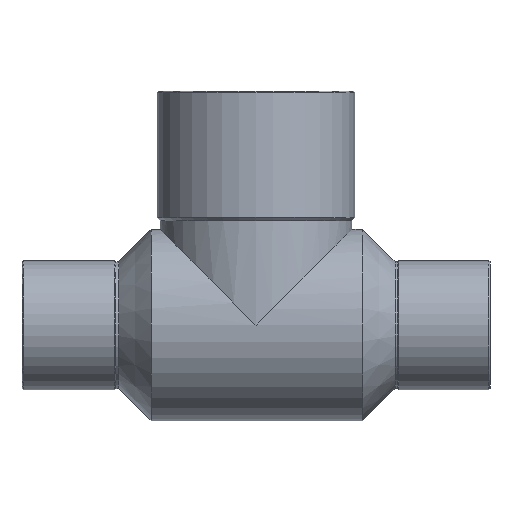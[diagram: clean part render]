
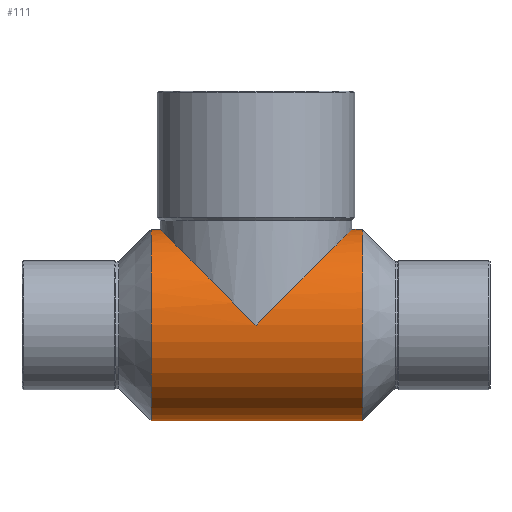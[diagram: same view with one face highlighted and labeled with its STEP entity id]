
A CAD part, top view. The second image highlights one B-rep face of the part: STEP entity #111.
In plain terms, the highlighted cylindrical face has radius 18 mm (diameter 36 mm), a partial arc.
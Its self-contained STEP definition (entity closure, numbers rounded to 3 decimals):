
#44=CARTESIAN_POINT('',(0.0,0.,0.0));
#45=DIRECTION('',(1.0,0.,0.0));
#46=DIRECTION('',(0.0,1.0,0.0));
#47=AXIS2_PLACEMENT_3D('',#44,#45,#46);
#48=CYLINDRICAL_SURFACE('',#47,18.);
#49=CARTESIAN_POINT('',(-19.744,18.0,0.0));
#50=VERTEX_POINT('',#49);
#51=CARTESIAN_POINT('',(-18.,18.0,0.));
#52=VERTEX_POINT('',#51);
#53=CARTESIAN_POINT('',(-19.744,18.0,0.0));
#54=DIRECTION('',(1.0,0.0,0.0));
#55=VECTOR('',#54,1.744);
#56=LINE('',#53,#55);
#57=EDGE_CURVE('',#50,#52,#56,.T.);
#58=ORIENTED_EDGE('',*,*,#57,.F.);
#59=CARTESIAN_POINT('',(-19.744,-18.,0.));
#60=VERTEX_POINT('',#59);
#61=CARTESIAN_POINT('',(-19.744,0.,0.0));
#62=DIRECTION('',(1.0,0.0,0.0));
#63=DIRECTION('',(0.0,1.0,0.0));
#64=AXIS2_PLACEMENT_3D('',#61,#62,#63);
#65=CIRCLE('',#64,18.);
#66=EDGE_CURVE('',#50,#60,#65,.T.);
#67=ORIENTED_EDGE('',*,*,#66,.T.);
#68=CARTESIAN_POINT('',(20.04,-18.,0.));
#69=VERTEX_POINT('',#68);
#70=CARTESIAN_POINT('',(20.04,-18.,0.));
#71=DIRECTION('',(-1.0,0.0,0.0));
#72=VECTOR('',#71,39.784);
#73=LINE('',#70,#72);
#74=EDGE_CURVE('',#69,#60,#73,.T.);
#75=ORIENTED_EDGE('',*,*,#74,.F.);
#76=CARTESIAN_POINT('',(20.04,18.,0.0));
#77=VERTEX_POINT('',#76);
#78=CARTESIAN_POINT('',(20.04,0.,0.0));
#79=DIRECTION('',(-1.0,0.0,0.0));
#80=DIRECTION('',(0.0,1.0,0.0));
#81=AXIS2_PLACEMENT_3D('',#78,#79,#80);
#82=CIRCLE('',#81,18.);
#83=EDGE_CURVE('',#69,#77,#82,.T.);
#84=ORIENTED_EDGE('',*,*,#83,.T.);
#85=CARTESIAN_POINT('',(18.,18.0,0.));
#86=VERTEX_POINT('',#85);
#87=CARTESIAN_POINT('',(18.,18.0,0.));
#88=DIRECTION('',(1.0,0.0,0.0));
#89=VECTOR('',#88,2.04);
#90=LINE('',#87,#89);
#91=EDGE_CURVE('',#86,#77,#90,.T.);
#92=ORIENTED_EDGE('',*,*,#91,.F.);
#93=CARTESIAN_POINT('',(0.,0.,18.));
#94=VERTEX_POINT('',#93);
#95=CARTESIAN_POINT('',(0.,0.,0.0));
#96=DIRECTION('',(0.707,-0.707,0.0));
#97=DIRECTION('',(0.707,0.707,0.0));
#98=AXIS2_PLACEMENT_3D('',#95,#96,#97);
#99=ELLIPSE('',#98,25.456,18.);
#100=EDGE_CURVE('',#86,#94,#99,.T.);
#101=ORIENTED_EDGE('',*,*,#100,.T.);
#102=CARTESIAN_POINT('',(0.,0.,0.0));
#103=DIRECTION('',(-0.707,-0.707,0.0));
#104=DIRECTION('',(0.707,-0.707,0.0));
#105=AXIS2_PLACEMENT_3D('',#102,#103,#104);
#106=ELLIPSE('',#105,25.456,18.0);
#107=EDGE_CURVE('',#94,#52,#106,.T.);
#108=ORIENTED_EDGE('',*,*,#107,.T.);
#109=EDGE_LOOP('',(#58,#67,#75,#84,#92,#101,#108));
#110=FACE_OUTER_BOUND('',#109,.T.);
#111=ADVANCED_FACE('',(#110),#48,.T.);
